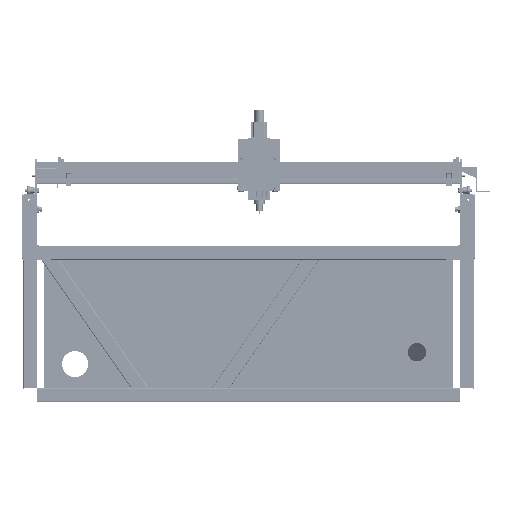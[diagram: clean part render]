
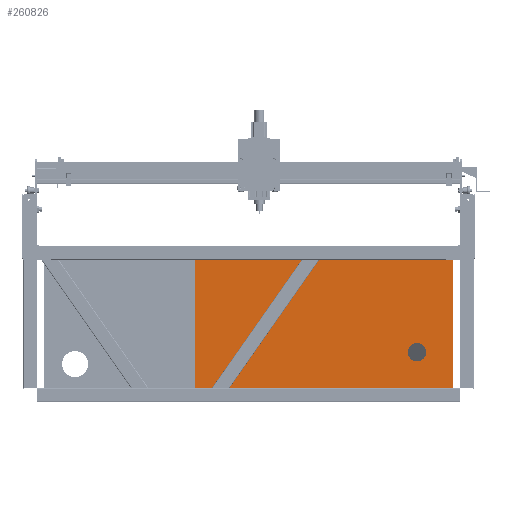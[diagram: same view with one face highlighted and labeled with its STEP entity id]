
A CAD part, front view. The second image highlights one B-rep face of the part: STEP entity #260826.
In plain terms, the highlighted planar face has unit normal (0, -1, 0).
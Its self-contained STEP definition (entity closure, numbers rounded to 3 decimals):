
#9762=FACE_BOUND('',#46233,.T.);
#10846=PLANE('',#282393);
#26701=FACE_OUTER_BOUND('',#46232,.T.);
#46232=EDGE_LOOP('',(#186649,#186650,#186651,#186652));
#46233=EDGE_LOOP('',(#186653));
#67078=LINE('',#391907,#94010);
#67081=LINE('',#391913,#94013);
#67084=LINE('',#391919,#94016);
#67087=LINE('',#391923,#94019);
#94010=VECTOR('',#312623,10.);
#94013=VECTOR('',#312628,10.);
#94016=VECTOR('',#312633,10.);
#94019=VECTOR('',#312638,10.);
#119678=CIRCLE('',#282387,32.459);
#125347=VERTEX_POINT('',#391895);
#125351=VERTEX_POINT('',#391904);
#125352=VERTEX_POINT('',#391906);
#125354=VERTEX_POINT('',#391912);
#125356=VERTEX_POINT('',#391918);
#145497=EDGE_CURVE('',#125347,#125347,#119678,.T.);
#145502=EDGE_CURVE('',#125352,#125351,#67078,.T.);
#145505=EDGE_CURVE('',#125354,#125352,#67081,.T.);
#145508=EDGE_CURVE('',#125356,#125354,#67084,.T.);
#145511=EDGE_CURVE('',#125351,#125356,#67087,.T.);
#186649=ORIENTED_EDGE('',*,*,#145511,.T.);
#186650=ORIENTED_EDGE('',*,*,#145508,.T.);
#186651=ORIENTED_EDGE('',*,*,#145505,.T.);
#186652=ORIENTED_EDGE('',*,*,#145502,.T.);
#186653=ORIENTED_EDGE('',*,*,#145497,.T.);
#260826=ADVANCED_FACE('',(#26701,#9762),#10846,.T.);
#282387=AXIS2_PLACEMENT_3D('',#391896,#312614,#312615);
#282393=AXIS2_PLACEMENT_3D('',#391924,#312639,#312640);
#312614=DIRECTION('center_axis',(0.,1.,0.));
#312615=DIRECTION('ref_axis',(1.,0.,0.));
#312623=DIRECTION('',(1.,0.,0.));
#312628=DIRECTION('',(0.,0.,-1.));
#312633=DIRECTION('',(-1.,0.,0.));
#312638=DIRECTION('',(0.,0.,1.));
#312639=DIRECTION('center_axis',(0.,-1.,0.));
#312640=DIRECTION('ref_axis',(0.,0.,-1.));
#391895=CARTESIAN_POINT('',(1365.541,2918.7,177.8));
#391896=CARTESIAN_POINT('Origin',(1398.,2918.7,177.8));
#391904=CARTESIAN_POINT('',(1525.,2918.7,50.8));
#391906=CARTESIAN_POINT('',(610.1,2918.7,50.8));
#391907=CARTESIAN_POINT('',(1525.,2918.7,50.8));
#391912=CARTESIAN_POINT('',(610.1,2918.7,505.8));
#391913=CARTESIAN_POINT('',(610.1,2918.7,50.8));
#391918=CARTESIAN_POINT('',(1525.,2918.7,505.8));
#391919=CARTESIAN_POINT('',(610.1,2918.7,505.8));
#391923=CARTESIAN_POINT('',(1525.,2918.7,505.8));
#391924=CARTESIAN_POINT('Origin',(1067.3,2918.7,278.3));
